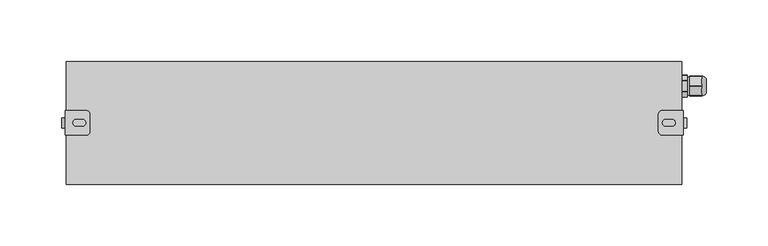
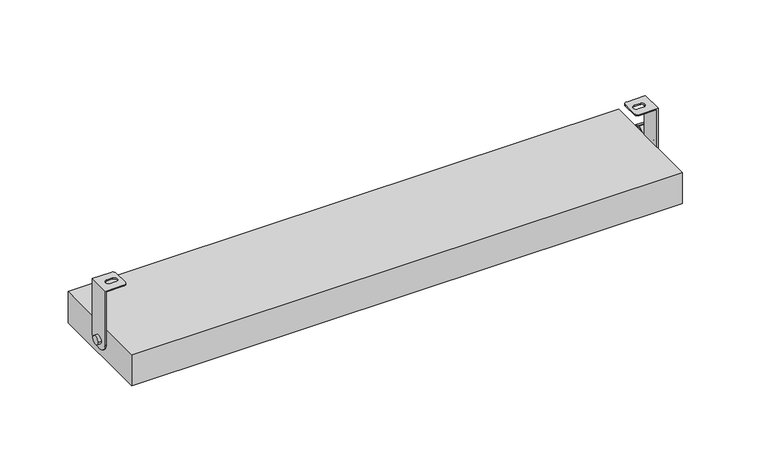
"""IFC4 building model written with IfcOpenShell, lengths in millimetres: light fixture geometry, GENILED_Светильник светодиодный_Titan Advanced : Titan Advanced 500x100x30 20Вт IP66 Матовое закаленное стекло."""

from ifc_helpers import new_model, si_unit, point, frame, frame_2d, origin, origin_with_axes, place, context, project, spatial, polyline, circle_curve, ellipse_curve, trimmed, segment, composite_curve, outline, extrude, source, transform, mapped, element, save
from ifc_brep_helpers import plane_surface, cylinder_surface, revolved_surface, advanced_brep


def light_fixture_e2a95042(model_context):
    return source(origin(), model_context, "Body", "SolidModel", [
        advanced_brep(
        [(-234.0, 10.0, 67.0), (-251.0, 10.0, 67.0), (-251.0, -10.0, 67.0), (-234.0, -10.0, 67.0), (-231.0, -7.0, 67.0), (-231.0, 7.0, 67.0), (-237.0, 2.75, 67.0), (-237.0, -2.75, 67.0), (-242.0, -2.75, 67.0), (-242.0, 2.75, 67.0), (-234.0, -10.0, 66.0), (-250.0, -10.0, 66.0), (-250.0, 10.0, 66.0), (-234.0, 10.0, 66.0), (-231.0, 7.0, 66.0), (-231.0, -7.0, 66.0), (-237.0, 2.75, 66.0), (-242.0, 2.75, 66.0), (-242.0, -2.75, 66.0), (-237.0, -2.75, 66.0), (-251.0, -10.0, 15.0), (-250.0, -10.0, 15.0), (-251.0, 10.0, 15.0), (-251.0, 2.0, 7.0), (-251.0, -2.0, 7.0), (-251.0, 4.0, 15.0), (-251.0, -4.0, 15.0), (-250.0, 10.0, 15.0), (-250.0, -2.0, 7.0), (-250.0, 2.0, 7.0), (-254.0, -4.0, 15.0), (-254.0, 4.0, 15.0)],
        [
            (0, 1),
            (1, 2),
            (2, 3),
            (3, 4, circle_curve(frame((-234.0, -7.0, 67.0), z_axis=(0.0, 0.0, 1.0), x_axis=(-1.0, 0.0, 0.0)), 3.0)),
            (4, 5),
            (5, 0, circle_curve(frame((-234.0, 7.0, 67.0), z_axis=(0.0, 0.0, 1.0), x_axis=(-1.0, 0.0, 0.0)), 3.0)),
            (6, 7, circle_curve(frame((-237.0, 0.0, 67.0), z_axis=(0.0, 0.0, -1.0), x_axis=(-1.0, 0.0, 0.0)), 2.75)),
            (7, 8),
            (8, 9, circle_curve(frame((-242.0, 0.0, 67.0), z_axis=(0.0, 0.0, -1.0), x_axis=(-1.0, 0.0, 0.0)), 2.75)),
            (9, 6),
            (10, 11),
            (11, 12),
            (12, 13),
            (13, 14, circle_curve(frame((-234.0, 7.0, 66.0), z_axis=(0.0, 0.0, -1.0), x_axis=(-1.0, 0.0, 0.0)), 3.0)),
            (14, 15),
            (15, 10, circle_curve(frame((-234.0, -7.0, 66.0), z_axis=(0.0, 0.0, -1.0), x_axis=(-1.0, 0.0, 0.0)), 3.0)),
            (16, 17),
            (17, 18, circle_curve(frame((-242.0, 0.0, 66.0), z_axis=(0.0, 0.0, 1.0), x_axis=(-1.0, 0.0, 0.0)), 2.75)),
            (18, 19),
            (19, 16, circle_curve(frame((-237.0, 0.0, 66.0), z_axis=(0.0, 0.0, 1.0), x_axis=(-1.0, 0.0, 0.0)), 2.75)),
            (5, 14),
            (13, 0),
            (4, 15),
            (3, 10),
            (2, 20),
            (20, 21),
            (21, 11),
            (1, 22),
            (22, 23, circle_curve(frame((-251.0, 2.0, 15.0), z_axis=(-1.0, 0.0, 0.0), x_axis=(0.0, 1.0, 0.0)), 8.0)),
            (23, 24),
            (24, 20, circle_curve(frame((-251.0, -2.0, 15.0), z_axis=(-1.0, 0.0, 0.0), x_axis=(0.0, 1.0, 0.0)), 8.0)),
            (25, 26, circle_curve(frame((-251.0, 0.0, 15.0), z_axis=(1.0, 0.0, 0.0), x_axis=(0.0, 1.0, 0.0)), 4.0)),
            (26, 25, circle_curve(frame((-251.0, 0.0, 15.0), z_axis=(1.0, 0.0, 0.0), x_axis=(0.0, 1.0, 0.0)), 4.0)),
            (12, 27),
            (27, 22),
            (9, 17),
            (16, 6),
            (8, 18),
            (7, 19),
            (21, 28, circle_curve(frame((-250.0, -2.0, 15.0), z_axis=(1.0, 0.0, 0.0), x_axis=(0.0, 1.0, 0.0)), 8.0)),
            (28, 29),
            (29, 27, circle_curve(frame((-250.0, 2.0, 15.0), z_axis=(1.0, 0.0, 0.0), x_axis=(0.0, 1.0, 0.0)), 8.0)),
            (24, 28),
            (23, 29),
            (30, 31, circle_curve(frame((-254.0, 0.0, 15.0), z_axis=(-1.0, 0.0, 0.0), x_axis=(0.0, 1.0, 0.0)), 4.0)),
            (31, 30, circle_curve(frame((-254.0, 0.0, 15.0), z_axis=(-1.0, 0.0, 0.0), x_axis=(0.0, 1.0, 0.0)), 4.0)),
            (31, 25),
            (26, 30),
        ],
        [
            plane_surface(frame((-237.0, 7.0, 67.0), z_axis=(0.0, 0.0, 1.0), x_axis=(0.0, 1.0, 0.0))),
            plane_surface(frame((-237.0, 7.0, 66.0), z_axis=(0.0, 0.0, -1.0), x_axis=(0.0, -1.0, 0.0))),
            cylinder_surface(frame((-234.0, 7.0, 66.0), z_axis=(0.0, 0.0, 1.0), x_axis=(-1.0, 0.0, 0.0)), 3.0),
            plane_surface(frame((-231.0, 7.0, 67.0), z_axis=(1.0, 0.0, 0.0), x_axis=(0.0, 0.0, -1.0))),
            cylinder_surface(frame((-234.0, -7.0, 66.0), z_axis=(0.0, 0.0, 1.0), x_axis=(-1.0, 0.0, 0.0)), 3.0),
            plane_surface(frame((-234.0, -10.0, 67.0), z_axis=(0.0, -1.0, 0.0), x_axis=(0.0, 0.0, -1.0))),
            plane_surface(frame((-251.0, -10.0, 67.0), z_axis=(-1.0, 0.0, 0.0), x_axis=(0.0, 0.0, -1.0))),
            plane_surface(frame((-251.0, 10.0, 67.0), z_axis=(0.0, 1.0, 0.0), x_axis=(0.0, 0.0, -1.0))),
            plane_surface(frame((-237.0, 2.75, 67.0), z_axis=(0.0, -1.0, 0.0), x_axis=(0.0, 0.0, -1.0))),
            revolved_surface(polyline([(-244.75, 0.0, 66.0), (-244.75, 0.0, 67.0)]), (-242.0, 0.0, 15.0), (0.0, 0.0, -1.0)),
            plane_surface(frame((-242.0, -2.75, 67.0), z_axis=(0.0, 1.0, 0.0), x_axis=(0.0, 0.0, -1.0))),
            revolved_surface(polyline([(-239.75, 0.0, 66.0), (-239.75, 0.0, 67.0)]), (-237.0, 0.0, 15.0), (0.0, 0.0, -1.0)),
            plane_surface(frame((-250.0, -10.0, 67.0), z_axis=(1.0, 0.0, 0.0), x_axis=(0.0, 1.0, 0.0))),
            cylinder_surface(frame((-250.0, -2.0, 15.0), z_axis=(-1.0, 0.0, 0.0), x_axis=(0.0, 1.0, 0.0)), 8.0),
            plane_surface(frame((-251.0, -2.0, 7.0), z_axis=(0.0, 0.0, -1.0), x_axis=(1.0, 0.0, 0.0))),
            cylinder_surface(frame((-250.0, 2.0, 15.0), z_axis=(-1.0, 0.0, 0.0), x_axis=(0.0, 1.0, 0.0)), 8.0),
            plane_surface(frame((-254.0, 4.0, 15.0), z_axis=(-1.0, 0.0, 0.0), x_axis=(0.0, 0.0, 1.0))),
            cylinder_surface(frame((-251.0, 0.0, 15.0), z_axis=(-1.0, 0.0, 0.0), x_axis=(0.0, 1.0, 0.0)), 4.0),
        ],
        [
            (0, [[1, 2, 3, 4, 5, 6], [7, 8, 9, 10]]),
            (1, [[11, 12, 13, 14, 15, 16], [17, 18, 19, 20]]),
            (2, [[21, -14, 22, -6]]),
            (3, [[23, -15, -21, -5]]),
            (4, [[24, -16, -23, -4]]),
            (5, [[-3, 25, 26, 27, -11, -24]]),
            (6, [[28, 29, 30, 31, -25, -2], [32, 33]]),
            (7, [[-13, 34, 35, -28, -1, -22]]),
            (8, [[36, -17, 37, -10]]),
            (9, [[38, -18, -36, -9]]),
            (10, [[39, -19, -38, -8]]),
            (11, [[-37, -20, -39, -7]]),
            (12, [[-34, -12, -27, 40, 41, 42]]),
            (13, [[43, -40, -26, -31]]),
            (14, [[44, -41, -43, -30]]),
            (15, [[-35, -42, -44, -29]]),
            (16, [[45, 46]]),
            (17, [[47, -33, 48, -46]]),
            (17, [[-48, -32, -47, -45]]),
        ],
    ),
        advanced_brep(
        [(234.0, 10.0, 67.0), (231.0, 7.0, 67.0), (231.0, -7.0, 67.0), (234.0, -10.0, 67.0), (251.0, -10.0, 67.0), (251.0, 10.0, 67.0), (237.0, 2.75, 67.0), (242.0, 2.75, 67.0), (242.0, -2.75, 67.0), (237.0, -2.75, 67.0), (234.0, -10.0, 66.0), (231.0, -7.0, 66.0), (231.0, 7.0, 66.0), (234.0, 10.0, 66.0), (250.0, 10.0, 66.0), (250.0, -10.0, 66.0), (237.0, 2.75, 66.0), (237.0, -2.75, 66.0), (242.0, -2.75, 66.0), (242.0, 2.75, 66.0), (250.0, -10.0, 15.0), (251.0, -10.0, 15.0), (251.0, -2.0, 7.0), (251.0, 2.0, 7.0), (251.0, 10.0, 15.0), (251.0, 4.0, 15.0), (251.0, -4.0, 15.0), (250.0, 10.0, 15.0), (250.0, 2.0, 7.0), (250.0, -2.0, 7.0), (254.0, -4.0, 15.0), (254.0, 4.0, 15.0)],
        [
            (0, 1, circle_curve(frame((234.0, 7.0, 67.0), z_axis=(0.0, 0.0, 1.0), x_axis=(1.0, 0.0, 0.0)), 3.0)),
            (1, 2),
            (2, 3, circle_curve(frame((234.0, -7.0, 67.0), z_axis=(0.0, 0.0, 1.0), x_axis=(1.0, 0.0, 0.0)), 3.0)),
            (3, 4),
            (4, 5),
            (5, 0),
            (6, 7),
            (7, 8, circle_curve(frame((242.0, 0.0, 67.0), z_axis=(0.0, 0.0, -1.0), x_axis=(1.0, 0.0, 0.0)), 2.75)),
            (8, 9),
            (9, 6, circle_curve(frame((237.0, 0.0, 67.0), z_axis=(0.0, 0.0, -1.0), x_axis=(1.0, 0.0, 0.0)), 2.75)),
            (10, 11, circle_curve(frame((234.0, -7.0, 66.0), z_axis=(0.0, 0.0, -1.0), x_axis=(1.0, 0.0, 0.0)), 3.0)),
            (11, 12),
            (12, 13, circle_curve(frame((234.0, 7.0, 66.0), z_axis=(0.0, 0.0, -1.0), x_axis=(1.0, 0.0, 0.0)), 3.0)),
            (13, 14),
            (14, 15),
            (15, 10),
            (16, 17, circle_curve(frame((237.0, 0.0, 66.0), z_axis=(0.0, 0.0, 1.0), x_axis=(1.0, 0.0, 0.0)), 2.75)),
            (17, 18),
            (18, 19, circle_curve(frame((242.0, 0.0, 66.0), z_axis=(0.0, 0.0, 1.0), x_axis=(1.0, 0.0, 0.0)), 2.75)),
            (19, 16),
            (0, 13),
            (12, 1),
            (11, 2),
            (10, 3),
            (15, 20),
            (20, 21),
            (21, 4),
            (21, 22, circle_curve(frame((251.0, -2.0, 15.0), z_axis=(1.0, 0.0, 0.0), x_axis=(0.0, 1.0, 0.0)), 8.0)),
            (22, 23),
            (23, 24, circle_curve(frame((251.0, 2.0, 15.0), z_axis=(1.0, 0.0, 0.0), x_axis=(0.0, 1.0, 0.0)), 8.0)),
            (24, 5),
            (25, 26, circle_curve(frame((251.0, 0.0, 15.0), z_axis=(-1.0, 0.0, 0.0), x_axis=(0.0, 1.0, 0.0)), 4.0)),
            (26, 25, circle_curve(frame((251.0, 0.0, 15.0), z_axis=(-1.0, 0.0, 0.0), x_axis=(0.0, 1.0, 0.0)), 4.0)),
            (24, 27),
            (27, 14),
            (6, 16),
            (19, 7),
            (18, 8),
            (17, 9),
            (27, 28, circle_curve(frame((250.0, 2.0, 15.0), z_axis=(-1.0, 0.0, 0.0), x_axis=(0.0, 1.0, 0.0)), 8.0)),
            (28, 29),
            (29, 20, circle_curve(frame((250.0, -2.0, 15.0), z_axis=(-1.0, 0.0, 0.0), x_axis=(0.0, 1.0, 0.0)), 8.0)),
            (29, 22),
            (28, 23),
            (30, 31, circle_curve(frame((254.0, 0.0, 15.0), z_axis=(1.0, 0.0, 0.0), x_axis=(0.0, 1.0, 0.0)), 4.0)),
            (31, 30, circle_curve(frame((254.0, 0.0, 15.0), z_axis=(1.0, 0.0, 0.0), x_axis=(0.0, 1.0, 0.0)), 4.0)),
            (30, 26),
            (25, 31),
        ],
        [
            plane_surface(frame((237.0, 7.0, 67.0), z_axis=(0.0, 0.0, 1.0), x_axis=(0.0, 1.0, 0.0))),
            plane_surface(frame((237.0, 7.0, 66.0), z_axis=(0.0, 0.0, -1.0), x_axis=(0.0, -1.0, 0.0))),
            cylinder_surface(frame((234.0, 7.0, 66.0), z_axis=(0.0, 0.0, 1.0), x_axis=(1.0, 0.0, 0.0)), 3.0),
            plane_surface(frame((231.0, 7.0, 67.0), z_axis=(-1.0, 0.0, 0.0), x_axis=(0.0, 0.0, -1.0))),
            cylinder_surface(frame((234.0, -7.0, 66.0), z_axis=(0.0, 0.0, 1.0), x_axis=(1.0, 0.0, 0.0)), 3.0),
            plane_surface(frame((234.0, -10.0, 67.0), z_axis=(0.0, -1.0, 0.0), x_axis=(0.0, 0.0, -1.0))),
            plane_surface(frame((251.0, -10.0, 67.0), z_axis=(1.0, 0.0, 0.0), x_axis=(0.0, 0.0, -1.0))),
            plane_surface(frame((251.0, 10.0, 67.0), z_axis=(0.0, 1.0, 0.0), x_axis=(0.0, 0.0, -1.0))),
            plane_surface(frame((237.0, 2.75, 67.0), z_axis=(0.0, -1.0, 0.0), x_axis=(0.0, 0.0, -1.0))),
            revolved_surface(polyline([(244.75, 0.0, 66.0), (244.75, 0.0, 67.0)]), (242.0, 0.0, 15.0), (0.0, 0.0, -1.0)),
            plane_surface(frame((242.0, -2.75, 67.0), z_axis=(0.0, 1.0, 0.0), x_axis=(0.0, 0.0, -1.0))),
            revolved_surface(polyline([(239.75, 0.0, 66.0), (239.75, 0.0, 67.0)]), (237.0, 0.0, 15.0), (0.0, 0.0, -1.0)),
            plane_surface(frame((250.0, -10.0, 67.0), z_axis=(-1.0, 0.0, 0.0), x_axis=(0.0, 1.0, 0.0))),
            cylinder_surface(frame((250.0, -2.0, 15.0), z_axis=(1.0, 0.0, 0.0), x_axis=(0.0, 1.0, 0.0)), 8.0),
            plane_surface(frame((251.0, -2.0, 7.0), z_axis=(0.0, 0.0, -1.0), x_axis=(-1.0, 0.0, 0.0))),
            cylinder_surface(frame((250.0, 2.0, 15.0), z_axis=(1.0, 0.0, 0.0), x_axis=(0.0, 1.0, 0.0)), 8.0),
            plane_surface(frame((254.0, 4.0, 15.0), z_axis=(1.0, 0.0, 0.0), x_axis=(0.0, 0.0, 1.0))),
            cylinder_surface(frame((251.0, 0.0, 15.0), z_axis=(1.0, 0.0, 0.0), x_axis=(0.0, 1.0, 0.0)), 4.0),
        ],
        [
            (0, [[1, 2, 3, 4, 5, 6], [7, 8, 9, 10]]),
            (1, [[11, 12, 13, 14, 15, 16], [17, 18, 19, 20]]),
            (2, [[-1, 21, -13, 22]]),
            (3, [[-2, -22, -12, 23]]),
            (4, [[-3, -23, -11, 24]]),
            (5, [[-24, -16, 25, 26, 27, -4]]),
            (6, [[-5, -27, 28, 29, 30, 31], [32, 33]]),
            (7, [[-21, -6, -31, 34, 35, -14]]),
            (8, [[-7, 36, -20, 37]]),
            (9, [[-8, -37, -19, 38]]),
            (10, [[-9, -38, -18, 39]]),
            (11, [[-10, -39, -17, -36]]),
            (12, [[40, 41, 42, -25, -15, -35]]),
            (13, [[-28, -26, -42, 43]]),
            (14, [[-29, -43, -41, 44]]),
            (15, [[-30, -44, -40, -34]]),
            (16, [[45, 46]]),
            (17, [[-45, 47, -32, 48]]),
            (17, [[-46, -48, -33, -47]]),
        ],
    ),
        advanced_brep(
        [(270.0120269, 24.15, 15.0), (270.0120269, 35.85, 15.0), (270.0120269, 33.5, 15.0), (270.0120269, 26.5, 15.0), (266.0120269, 22.0, 15.0), (266.0120269, 26.0, 8.0717968), (266.0120269, 34.0, 8.0717968), (266.0120269, 38.0, 15.0), (266.0120269, 34.0, 21.9282032), (266.0120269, 26.0, 21.9282032), (266.0120269, 33.5, 15.0), (266.0120269, 26.5, 15.0), (266.0120269, 22.0, 10.8768944), (266.0120269, 22.4292858, 10.1333496), (266.0120269, 29.5707142, 6.010244), (266.0120269, 30.4292858, 6.010244), (266.0120269, 37.5707142, 10.1333496), (266.0120269, 38.0, 10.8768944), (266.0120269, 38.0, 19.1231056), (266.0120269, 37.5707142, 19.8666504), (266.0120269, 30.4292858, 23.989756), (266.0120269, 29.5707142, 23.989756), (266.0120269, 22.4292858, 19.8666504), (266.0120269, 22.0, 19.1231056), (256.6, 29.5707142, 6.010244), (256.6, 22.4292858, 10.1333496), (256.6, 22.0, 10.8768944), (256.6, 22.0, 19.1231056), (256.6, 22.4292858, 19.8666504), (256.6, 29.5707142, 23.989756), (256.6, 30.4292858, 23.989756), (256.6, 37.5707142, 19.8666504), (256.6, 38.0, 19.1231056), (256.6, 38.0, 10.8768944), (256.6, 37.5707142, 10.1333496), (256.6, 30.4292858, 6.010244), (256.6, 37.25, 15.0), (256.6, 22.75, 15.0), (254.6, 37.25, 15.0), (254.6, 22.75, 15.0), (254.6, 38.989756, 15.4292858), (254.6, 34.8666504, 22.5707142), (254.6, 34.1231056, 23.0), (254.6, 25.8768944, 23.0), (254.6, 25.1333496, 22.5707142), (254.6, 21.010244, 15.4292858), (254.6, 21.0, 15.0), (254.6, 21.010244, 14.5707142), (254.6, 25.1333496, 7.4292858), (254.6, 25.8768944, 7.0), (254.6, 34.1231056, 7.0), (254.6, 34.8666504, 7.4292858), (254.6, 38.989756, 14.5707142), (254.6, 39.0, 15.0), (250.0, 38.989756, 14.5707142), (250.0, 34.8666504, 7.4292858), (250.0, 34.1231056, 7.0), (250.0, 25.8768944, 7.0), (250.0, 25.1333496, 7.4292858), (250.0, 21.010244, 14.5707142), (250.0, 21.0, 15.0), (250.0, 21.010244, 15.4292858), (250.0, 25.1333496, 22.5707142), (250.0, 25.8768944, 23.0), (250.0, 34.1231056, 23.0), (250.0, 34.8666504, 22.5707142), (250.0, 38.989756, 15.4292858), (250.0, 39.0, 15.0)],
        [
            (0, 1, circle_curve(frame((270.0120269, 30.0, 15.0), z_axis=(1.0, 0.0, 0.0), x_axis=(0.0, 1.0, 0.0)), 5.85)),
            (1, 2),
            (2, 3, circle_curve(frame((270.0120269, 30.0, 15.0), z_axis=(-1.0, 0.0, 0.0), x_axis=(0.0, 1.0, 0.0)), 3.5)),
            (3, 0),
            (1, 0, circle_curve(frame((270.0120269, 30.0, 15.0), z_axis=(1.0, 0.0, 0.0), x_axis=(0.0, 1.0, 0.0)), 5.85)),
            (3, 2, circle_curve(frame((270.0120269, 30.0, 15.0), z_axis=(-1.0, 0.0, 0.0), x_axis=(0.0, 1.0, 0.0)), 3.5)),
            (0, 4, circle_curve(frame((265.6269324, 27.5123851, 15.0), z_axis=(0.0, 0.0, -1.0), x_axis=(0.0, 1.0, 0.0)), 5.5258201)),
            (4, 5, circle_curve(frame((266.0120269, 30.0, 15.0), z_axis=(1.0, 0.0, 0.0), x_axis=(0.0, 1.0, 0.0)), 8.0)),
            (5, 6, circle_curve(frame((266.0120269, 30.0, 15.0), z_axis=(1.0, 0.0, 0.0), x_axis=(0.0, 1.0, 0.0)), 8.0)),
            (6, 7, circle_curve(frame((266.0120269, 30.0, 15.0), z_axis=(1.0, 0.0, 0.0), x_axis=(0.0, 1.0, 0.0)), 8.0)),
            (7, 1, circle_curve(frame((265.6269324, 32.4876149, 15.0), z_axis=(0.0, 0.0, -1.0), x_axis=(0.0, -1.0, 0.0)), 5.5258201)),
            (7, 8, circle_curve(frame((266.0120269, 30.0, 15.0), z_axis=(1.0, 0.0, 0.0), x_axis=(0.0, 1.0, 0.0)), 8.0)),
            (8, 9, circle_curve(frame((266.0120269, 30.0, 15.0), z_axis=(1.0, 0.0, 0.0), x_axis=(0.0, 1.0, 0.0)), 8.0)),
            (9, 4, circle_curve(frame((266.0120269, 30.0, 15.0), z_axis=(1.0, 0.0, 0.0), x_axis=(0.0, 1.0, 0.0)), 8.0)),
            (2, 10),
            (10, 11, circle_curve(frame((266.0120269, 30.0, 15.0), z_axis=(-1.0, 0.0, 0.0), x_axis=(0.0, 1.0, 0.0)), 3.5)),
            (11, 3),
            (11, 10, circle_curve(frame((266.0120269, 30.0, 15.0), z_axis=(-1.0, 0.0, 0.0), x_axis=(0.0, 1.0, 0.0)), 3.5)),
            (4, 12),
            (12, 13, circle_curve(frame((266.0120269, 30.0, 15.0), z_axis=(1.0, 0.0, 0.0), x_axis=(0.0, -1.0, 0.0)), 9.0)),
            (13, 5),
            (5, 14),
            (14, 15, circle_curve(frame((266.0120269, 30.0, 15.0), z_axis=(1.0, 0.0, 0.0), x_axis=(0.0, -1.0, 0.0)), 9.0)),
            (15, 6),
            (6, 16),
            (16, 17, circle_curve(frame((266.0120269, 30.0, 15.0), z_axis=(1.0, 0.0, 0.0), x_axis=(0.0, -1.0, 0.0)), 9.0)),
            (17, 7),
            (7, 18),
            (18, 19, circle_curve(frame((266.0120269, 30.0, 15.0), z_axis=(1.0, 0.0, 0.0), x_axis=(0.0, -1.0, 0.0)), 9.0)),
            (19, 8),
            (8, 20),
            (20, 21, circle_curve(frame((266.0120269, 30.0, 15.0), z_axis=(1.0, 0.0, 0.0), x_axis=(0.0, -1.0, 0.0)), 9.0)),
            (21, 9),
            (9, 22),
            (22, 23, circle_curve(frame((266.0120269, 30.0, 15.0), z_axis=(1.0, 0.0, 0.0), x_axis=(0.0, -1.0, 0.0)), 9.0)),
            (23, 4),
            (24, 25),
            (25, 26, circle_curve(frame((256.6, 30.0, 15.0), z_axis=(-1.0, 0.0, 0.0), x_axis=(0.0, -1.0, 0.0)), 9.0)),
            (26, 27),
            (27, 28, circle_curve(frame((256.6, 30.0, 15.0), z_axis=(-1.0, 0.0, 0.0), x_axis=(0.0, -1.0, 0.0)), 9.0)),
            (28, 29),
            (29, 30, circle_curve(frame((256.6, 30.0, 15.0), z_axis=(-1.0, 0.0, 0.0), x_axis=(0.0, -1.0, 0.0)), 9.0)),
            (30, 31),
            (31, 32, circle_curve(frame((256.6, 30.0, 15.0), z_axis=(-1.0, 0.0, 0.0), x_axis=(0.0, -1.0, 0.0)), 9.0)),
            (32, 33),
            (33, 34, circle_curve(frame((256.6, 30.0, 15.0), z_axis=(-1.0, 0.0, 0.0), x_axis=(0.0, -1.0, 0.0)), 9.0)),
            (34, 35),
            (35, 24, circle_curve(frame((256.6, 30.0, 15.0), z_axis=(-1.0, 0.0, 0.0), x_axis=(0.0, -1.0, 0.0)), 9.0)),
            (36, 37, circle_curve(frame((256.6, 30.0, 15.0), z_axis=(1.0, 0.0, 0.0), x_axis=(0.0, -1.0, 0.0)), 7.25)),
            (37, 36, circle_curve(frame((256.6, 30.0, 15.0), z_axis=(1.0, 0.0, 0.0), x_axis=(0.0, -1.0, 0.0)), 7.25)),
            (15, 35),
            (34, 16),
            (17, 33),
            (32, 18),
            (19, 31),
            (30, 20),
            (21, 29),
            (28, 22),
            (23, 27),
            (26, 12),
            (13, 25),
            (24, 14),
            (36, 38),
            (38, 39, circle_curve(frame((254.6, 30.0, 15.0), z_axis=(1.0, 0.0, 0.0), x_axis=(0.0, -1.0, 0.0)), 7.25)),
            (39, 37),
            (39, 38, circle_curve(frame((254.6, 30.0, 15.0), z_axis=(1.0, 0.0, 0.0), x_axis=(0.0, -1.0, 0.0)), 7.25)),
            (40, 41),
            (41, 42, circle_curve(frame((254.6, 30.0, 15.0), z_axis=(1.0, 0.0, 0.0), x_axis=(0.0, -1.0, 0.0)), 9.0)),
            (42, 43),
            (43, 44, circle_curve(frame((254.6, 30.0, 15.0), z_axis=(1.0, 0.0, 0.0), x_axis=(0.0, -1.0, 0.0)), 9.0)),
            (44, 45),
            (45, 46, circle_curve(frame((254.6, 30.0, 15.0), z_axis=(1.0, 0.0, 0.0), x_axis=(0.0, -1.0, 0.0)), 9.0)),
            (46, 47, circle_curve(frame((254.6, 30.0, 15.0), z_axis=(1.0, 0.0, 0.0), x_axis=(0.0, -1.0, 0.0)), 9.0)),
            (47, 48),
            (48, 49, circle_curve(frame((254.6, 30.0, 15.0), z_axis=(1.0, 0.0, 0.0), x_axis=(0.0, -1.0, 0.0)), 9.0)),
            (49, 50),
            (50, 51, circle_curve(frame((254.6, 30.0, 15.0), z_axis=(1.0, 0.0, 0.0), x_axis=(0.0, -1.0, 0.0)), 9.0)),
            (51, 52),
            (52, 53, circle_curve(frame((254.6, 30.0, 15.0), z_axis=(1.0, 0.0, 0.0), x_axis=(0.0, -1.0, 0.0)), 9.0)),
            (53, 40, circle_curve(frame((254.6, 30.0, 15.0), z_axis=(1.0, 0.0, 0.0), x_axis=(0.0, -1.0, 0.0)), 9.0)),
            (54, 55),
            (55, 56, circle_curve(frame((250.0, 30.0, 15.0), z_axis=(-1.0, 0.0, 0.0), x_axis=(0.0, -1.0, 0.0)), 9.0)),
            (56, 57),
            (57, 58, circle_curve(frame((250.0, 30.0, 15.0), z_axis=(-1.0, 0.0, 0.0), x_axis=(0.0, -1.0, 0.0)), 9.0)),
            (58, 59),
            (59, 60, circle_curve(frame((250.0, 30.0, 15.0), z_axis=(-1.0, 0.0, 0.0), x_axis=(0.0, -1.0, 0.0)), 9.0)),
            (60, 61, circle_curve(frame((250.0, 30.0, 15.0), z_axis=(-1.0, 0.0, 0.0), x_axis=(0.0, -1.0, 0.0)), 9.0)),
            (61, 62),
            (62, 63, circle_curve(frame((250.0, 30.0, 15.0), z_axis=(-1.0, 0.0, 0.0), x_axis=(0.0, -1.0, 0.0)), 9.0)),
            (63, 64),
            (64, 65, circle_curve(frame((250.0, 30.0, 15.0), z_axis=(-1.0, 0.0, 0.0), x_axis=(0.0, -1.0, 0.0)), 9.0)),
            (65, 66),
            (66, 67, circle_curve(frame((250.0, 30.0, 15.0), z_axis=(-1.0, 0.0, 0.0), x_axis=(0.0, -1.0, 0.0)), 9.0)),
            (67, 54, circle_curve(frame((250.0, 30.0, 15.0), z_axis=(-1.0, 0.0, 0.0), x_axis=(0.0, -1.0, 0.0)), 9.0)),
            (40, 66),
            (65, 41),
            (42, 64),
            (63, 43),
            (44, 62),
            (61, 45),
            (47, 59),
            (58, 48),
            (49, 57),
            (56, 50),
            (51, 55),
            (54, 52),
            (67, 53),
            (46, 60),
        ],
        [
            plane_surface(frame((270.0120269, 30.0, 15.0), z_axis=(1.0, 0.0, 0.0), x_axis=(0.0, 1.0, 0.0))),
            revolved_surface(trimmed(ellipse_curve(frame((265.6269324, 32.4876149, 15.0), z_axis=(0.0, 0.0, 1.0), x_axis=(0.0, -1.0, 0.0)), 5.5258201, 5.5258201), [point((270.0120269, 35.85, 15.0))], [point((266.0120269, 38.0, 15.0))], True, "CARTESIAN"), (266.0120269, 30.0, 15.0), (-1.0, 0.0, 0.0)),
            revolved_surface(polyline([(266.0120269, 33.5, 15.0), (270.0120269, 33.5, 15.0)]), (266.0120269, 30.0, 15.0), (-1.0, 0.0, 0.0)),
            plane_surface(frame((266.0120269, 30.0, 5.7623957), z_axis=(1.0000000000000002, 0.0, 0.0), x_axis=(0.0, 0.8660254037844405, 0.49999999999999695))),
            plane_surface(frame((256.6, 30.0, 5.7623957), z_axis=(-1.0000000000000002, 0.0, 0.0), x_axis=(0.0, -0.8660254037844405, -0.49999999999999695))),
            plane_surface(frame((266.0120269, 30.0, 5.7623957), z_axis=(0.0, 0.49999999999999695, -0.8660254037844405), x_axis=(-1.0, 0.0, 0.0))),
            plane_surface(frame((266.0120269, 38.0, 10.3811978), z_axis=(0.0, 1.0, 0.0), x_axis=(-1.0, 0.0, 0.0))),
            plane_surface(frame((266.0120269, 38.0, 19.6188022), z_axis=(0.0, 0.5000000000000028, 0.8660254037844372), x_axis=(-1.0, 0.0, 0.0))),
            plane_surface(frame((266.0120269, 30.0, 24.2376043), z_axis=(0.0, -0.49999999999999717, 0.8660254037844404), x_axis=(-1.0, 0.0, 0.0))),
            plane_surface(frame((266.0120269, 22.0, 19.6188022), z_axis=(0.0, -1.0, 0.0), x_axis=(-1.0, 0.0, 0.0))),
            plane_surface(frame((266.0120269, 22.0, 10.3811978), z_axis=(0.0, -0.5000000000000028, -0.8660254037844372), x_axis=(-1.0, 0.0, 0.0))),
            cylinder_surface(frame((254.6, 30.0, 15.0), z_axis=(1.0, 0.0, 0.0), x_axis=(0.0, -1.0, 0.0)), 7.25),
            plane_surface(frame((254.6, 39.2376043, 15.0), z_axis=(1.0, 0.0, 0.0), x_axis=(0.0, -0.5000000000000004, 0.8660254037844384))),
            plane_surface(frame((250.0, 39.2376043, 15.0), z_axis=(-1.0, 0.0, 0.0), x_axis=(0.0, 0.5000000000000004, -0.8660254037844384))),
            plane_surface(frame((254.6, 39.2376043, 15.0), z_axis=(0.0, 0.8660254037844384, 0.5000000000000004), x_axis=(-1.0, 0.0, 0.0))),
            plane_surface(frame((254.6, 34.6188022, 23.0), z_axis=(0.0, 0.0, 1.0), x_axis=(-1.0, 0.0, 0.0))),
            plane_surface(frame((254.6, 25.3811978, 23.0), z_axis=(0.0, -0.866025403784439, 0.49999999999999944), x_axis=(-1.0, 0.0, 0.0))),
            plane_surface(frame((254.6, 20.7623957, 15.0), z_axis=(0.0, -0.8660254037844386, -0.5000000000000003), x_axis=(-1.0, 0.0, 0.0))),
            plane_surface(frame((254.6, 25.3811978, 7.0), z_axis=(0.0, 0.0, -1.0), x_axis=(-1.0, 0.0, 0.0))),
            plane_surface(frame((254.6, 34.6188022, 7.0), z_axis=(0.0, 0.8660254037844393, -0.49999999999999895), x_axis=(-1.0, 0.0, 0.0))),
            cylinder_surface(frame((250.0, 30.0, 15.0), z_axis=(-1.0, 0.0, 0.0), x_axis=(0.0, -1.0, 0.0)), 9.0),
        ],
        [
            (0, [[1, 2, 3, 4]]),
            (0, [[-2, 5, -4, 6]]),
            (1, [[-1, 7, 8, 9, 10, 11]]),
            (1, [[-5, -11, 12, 13, 14, -7]]),
            (2, [[-3, 15, 16, 17]]),
            (2, [[-6, -17, 18, -15]]),
            (3, [[-8, 19, 20, 21]]),
            (3, [[-9, 22, 23, 24]]),
            (3, [[-10, 25, 26, 27]]),
            (3, [[-12, 28, 29, 30]]),
            (3, [[-13, 31, 32, 33]]),
            (3, [[-14, 34, 35, 36]]),
            (3, [[-16, -18]]),
            (4, [[37, 38, 39, 40, 41, 42, 43, 44, 45, 46, 47, 48], [49, 50]]),
            (5, [[-25, -24, 51, -47, 52]]),
            (6, [[-27, 53, -45, 54, -28]]),
            (7, [[-30, 55, -43, 56, -31]]),
            (8, [[-34, -33, 57, -41, 58]]),
            (9, [[-36, 59, -39, 60, -19]]),
            (10, [[-21, 61, -37, 62, -22]]),
            (11, [[63, 64, 65, -49]]),
            (11, [[-63, -50, -65, 66]]),
            (12, [[67, 68, 69, 70, 71, 72, 73, 74, 75, 76, 77, 78, 79, 80], [-64, -66]]),
            (13, [[81, 82, 83, 84, 85, 86, 87, 88, 89, 90, 91, 92, 93, 94]]),
            (14, [[-67, 95, -92, 96]]),
            (15, [[-69, 97, -90, 98]]),
            (16, [[-71, 99, -88, 100]]),
            (17, [[-74, 101, -85, 102]]),
            (18, [[-76, 103, -83, 104]]),
            (19, [[-78, 105, -81, 106]]),
            (20, [[-20, -60, -38, -61]]),
            (20, [[-23, -62, -48, -51]]),
            (20, [[-26, -52, -46, -53]]),
            (20, [[-75, -102, -84, -103]]),
            (20, [[-77, -104, -82, -105]]),
            (20, [[107, -79, -106, -94]]),
            (20, [[108, -86, -101, -73]]),
            (20, [[-29, -54, -44, -55]]),
            (20, [[-32, -56, -42, -57]]),
            (20, [[-35, -58, -40, -59]]),
            (20, [[-68, -96, -91, -97]]),
            (20, [[-70, -98, -89, -99]]),
            (20, [[-107, -93, -95, -80]]),
            (20, [[-108, -72, -100, -87]]),
        ],
    ),
        advanced_brep(
        [(250.0, 50.0, 30.0), (-250.0, 50.0, 30.0), (-250.0, -50.0, 30.0), (250.0, -50.0, 30.0), (250.0, 50.0, 0.0), (250.0, -50.0, 0.0), (-250.0, -50.0, 0.0), (-250.0, 50.0, 0.0), (220.0, 35.0, 0.0), (-220.0, 35.0, 0.0), (-235.0, 20.0, 0.0), (-235.0, -20.0, 0.0), (-220.0, -35.0, 0.0), (220.0, -35.0, 0.0), (235.0, -20.0, 0.0), (235.0, 20.0, 0.0), (235.0, 20.0, 5.0), (220.0, 35.0, 5.0), (235.0, -20.0, 5.0), (220.0, -35.0, 5.0), (-220.0, -35.0, 5.0), (-235.0, -20.0, 5.0), (-235.0, 20.0, 5.0), (-220.0, 35.0, 5.0)],
        [
            (0, 1),
            (1, 2),
            (2, 3),
            (3, 0),
            (4, 5),
            (5, 6),
            (6, 7),
            (7, 4),
            (8, 9),
            (9, 10, circle_curve(frame((-220.0, 20.0, 0.0), z_axis=(0.0, 0.0, 1.0), x_axis=(1.0, 0.0, 0.0)), 15.0)),
            (10, 11),
            (11, 12, circle_curve(frame((-220.0, -20.0, 0.0), z_axis=(0.0, 0.0, 1.0), x_axis=(1.0, 0.0, 0.0)), 15.0)),
            (12, 13),
            (13, 14, circle_curve(frame((220.0, -20.0, 0.0), z_axis=(0.0, 0.0, 1.0), x_axis=(1.0, 0.0, 0.0)), 15.0)),
            (14, 15),
            (15, 8, circle_curve(frame((220.0, 20.0, 0.0), z_axis=(0.0, 0.0, 1.0), x_axis=(1.0, 0.0, 0.0)), 15.0)),
            (0, 4),
            (7, 1),
            (6, 2),
            (5, 3),
            (15, 16),
            (16, 17, circle_curve(frame((220.0, 20.0, 5.0), z_axis=(0.0, 0.0, 1.0), x_axis=(1.0, 0.0, 0.0)), 15.0)),
            (17, 8),
            (14, 18),
            (18, 16),
            (13, 19),
            (19, 18, circle_curve(frame((220.0, -20.0, 5.0), z_axis=(0.0, 0.0, 1.0), x_axis=(1.0, 0.0, 0.0)), 15.0)),
            (12, 20),
            (20, 19),
            (11, 21),
            (21, 20, circle_curve(frame((-220.0, -20.0, 5.0), z_axis=(0.0, 0.0, 1.0), x_axis=(1.0, 0.0, 0.0)), 15.0)),
            (10, 22),
            (22, 21),
            (9, 23),
            (23, 22, circle_curve(frame((-220.0, 20.0, 5.0), z_axis=(0.0, 0.0, 1.0), x_axis=(1.0, 0.0, 0.0)), 15.0)),
            (17, 23),
        ],
        [
            plane_surface(frame((-250.0, 50.0, 30.0), z_axis=(0.0, 0.0, 1.0), x_axis=(-1.0, 0.0, 0.0))),
            plane_surface(frame((-250.0, 50.0, 0.0), z_axis=(0.0, 0.0, -1.0), x_axis=(1.0, 0.0, 0.0))),
            plane_surface(frame((250.0, 50.0, 30.0), z_axis=(0.0, 1.0, 0.0), x_axis=(0.0, 0.0, -1.0))),
            plane_surface(frame((-250.0, 50.0, 30.0), z_axis=(-1.0, 0.0, 0.0), x_axis=(0.0, 0.0, -1.0))),
            plane_surface(frame((-250.0, -50.0, 30.0), z_axis=(0.0, -1.0, 0.0), x_axis=(0.0, 0.0, -1.0))),
            plane_surface(frame((250.0, -50.0, 30.0), z_axis=(1.0, 0.0, 0.0), x_axis=(0.0, 0.0, -1.0))),
            revolved_surface(polyline([(235.0, 20.0, 0.0), (235.0, 20.0, 5.0)]), (220.0, 20.0, 0.0), (0.0, 0.0, -1.0)),
            plane_surface(frame((235.0, 20.0, 30.0), z_axis=(-1.0, 0.0, 0.0), x_axis=(0.0, 0.0, -1.0))),
            revolved_surface(polyline([(235.0, -20.0, 0.0), (235.0, -20.0, 5.0)]), (220.0, -20.0, 0.0), (0.0, 0.0, -1.0)),
            plane_surface(frame((220.0, -35.0, 30.0), z_axis=(0.0, 1.0, 0.0), x_axis=(0.0, 0.0, -1.0))),
            revolved_surface(polyline([(-205.0, -20.0, 0.0), (-205.0, -20.0, 5.0)]), (-220.0, -20.0, 0.0), (0.0, 0.0, -1.0)),
            plane_surface(frame((-235.0, -20.0, 30.0), z_axis=(1.0, 0.0, 0.0), x_axis=(0.0, 0.0, -1.0))),
            revolved_surface(polyline([(-205.0, 20.0, 0.0), (-205.0, 20.0, 5.0)]), (-220.0, 20.0, 0.0), (0.0, 0.0, -1.0)),
            plane_surface(frame((-220.0, 35.0, 30.0), z_axis=(0.0, -1.0, 0.0), x_axis=(0.0, 0.0, -1.0))),
            plane_surface(frame((-220.0, 35.0, 5.0), z_axis=(0.0, 0.0, -1.0), x_axis=(1.0, 0.0, 0.0))),
        ],
        [
            (0, [[1, 2, 3, 4]]),
            (1, [[5, 6, 7, 8], [9, 10, 11, 12, 13, 14, 15, 16]]),
            (2, [[-1, 17, -8, 18]]),
            (3, [[-2, -18, -7, 19]]),
            (4, [[-3, -19, -6, 20]]),
            (5, [[-4, -20, -5, -17]]),
            (6, [[-16, 21, 22, 23]]),
            (7, [[-15, 24, 25, -21]]),
            (8, [[-14, 26, 27, -24]]),
            (9, [[-13, 28, 29, -26]]),
            (10, [[-12, 30, 31, -28]]),
            (11, [[-11, 32, 33, -30]]),
            (12, [[-10, 34, 35, -32]]),
            (13, [[-9, -23, 36, -34]]),
            (14, [[-22, -25, -27, -29, -31, -33, -35, -36]]),
        ],
    ),
        extrude(outline(composite_curve([segment(trimmed(circle_curve(frame_2d((220.0, 20.0)), 15.0), [point((220.0, 35.0))], [point((235.0, 20.0))], False, "CARTESIAN"), True, "CONTINUOUS"), segment(polyline([(235.0, 20.0), (235.0, -20.0)]), True, "CONTINUOUS"), segment(trimmed(circle_curve(frame_2d((220.0, -20.0)), 15.0), [point((235.0, -20.0))], [point((220.0, -35.0))], False, "CARTESIAN"), True, "CONTINUOUS"), segment(polyline([(220.0, -35.0), (-220.0, -35.0)]), True, "CONTINUOUS"), segment(trimmed(circle_curve(frame_2d((-220.0, -20.0)), 15.0), [point((-220.0, -35.0))], [point((-235.0, -20.0))], False, "CARTESIAN"), True, "CONTINUOUS"), segment(polyline([(-235.0, -20.0), (-235.0, 20.0)]), True, "CONTINUOUS"), segment(trimmed(circle_curve(frame_2d((-220.0, 20.0)), 15.0), [point((-235.0, 20.0))], [point((-220.0, 35.0))], False, "CARTESIAN"), True, "CONTINUOUS"), segment(polyline([(-220.0, 35.0), (220.0, 35.0)]), True, "CONTINUOUS")], self_intersect=False)), origin_with_axes(), (0.0, 0.0, 1.0), 5.0),
    ])


if __name__ == "__main__":
    model = new_model("IFC4")
    model_context = context("Model", 3, world=origin())
    ifc_project = project(units=[si_unit("LENGTHUNIT", "METRE", prefix="MILLI")], contexts=[model_context])
    site = spatial("IfcSite", under=ifc_project)
    building = spatial("IfcBuilding", under=site)
    placement = place(None, origin())
    light_fixture_shape = light_fixture_e2a95042(model_context)
    element("IfcLightFixture", 1, ObjectType="GENILED_Светильник светодиодный_Titan Advanced : Titan Advanced 500x100x30 20Вт IP66 Матовое закаленное стекло", at=placement, inside=building, context=model_context, shape_type="MappedRepresentation", body=[
        mapped(light_fixture_shape, transform((0.0, 0.0, 0.0), x_axis=(1.0, 0.0, 0.0), y_axis=(0.0, 1.0, 0.0), z_axis=(0.0, 0.0, 1.0))),
    ])
    save(model, "model.ifc")
